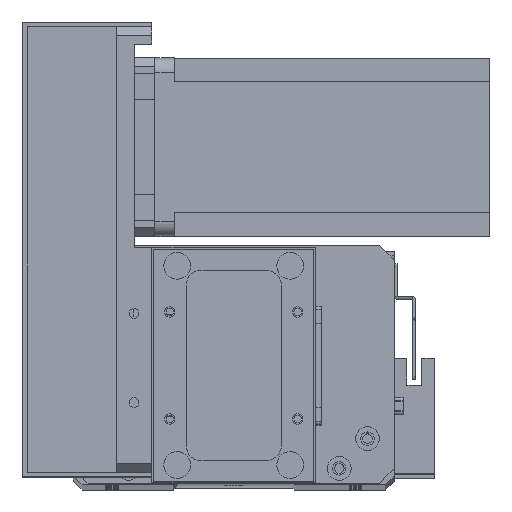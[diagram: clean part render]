
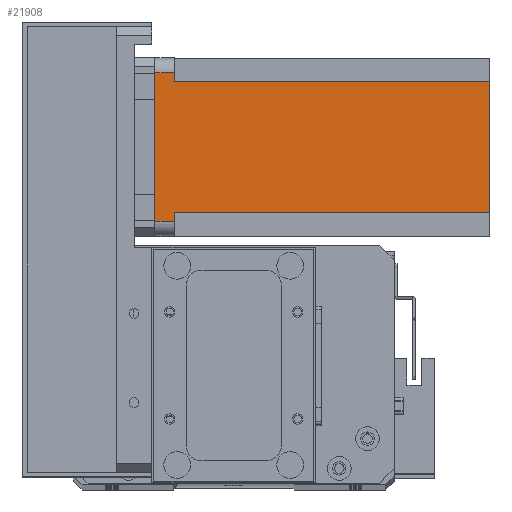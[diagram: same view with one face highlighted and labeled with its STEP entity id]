
A CAD part, top view. The second image highlights one B-rep face of the part: STEP entity #21908.
In plain terms, the highlighted planar face has unit normal (0, 0, 1) as drawn and (0, -1, 0) by its records, which use the part's own axes.
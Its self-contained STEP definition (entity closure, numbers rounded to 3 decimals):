
#1100 = EDGE_LOOP ( 'NONE', ( #6539, #14373, #20400, #7225, #6893, #10232, #17307, #29730 ) ) ;
#1119 = LINE ( 'NONE', #8290, #25360 ) ;
#1300 = EDGE_CURVE ( 'NONE', #26742, #24600, #15073, .T. ) ;
#1457 = CARTESIAN_POINT ( 'NONE',  ( 8., 0., -6.5 ) ) ;
#1964 = AXIS2_PLACEMENT_3D ( 'NONE', #4829, #11944, #28167 ) ;
#2926 = EDGE_CURVE ( 'NONE', #22791, #24600, #27307, .T. ) ;
#3059 = VECTOR ( 'NONE', #28596, 1000. ) ;
#4236 = LINE ( 'NONE', #28152, #9096 ) ;
#4522 = EDGE_CURVE ( 'NONE', #18155, #19927, #21744, .T. ) ;
#4829 = CARTESIAN_POINT ( 'NONE',  ( 0., 0., -112.5 ) ) ;
#5607 = LINE ( 'NONE', #27338, #29689 ) ;
#5912 = CARTESIAN_POINT ( 'NONE',  ( 5., 0., -6.5 ) ) ;
#6539 = ORIENTED_EDGE ( 'NONE', *, *, #7738, .T. ) ;
#6701 = CARTESIAN_POINT ( 'NONE',  ( 52., 0., -112.5 ) ) ;
#6893 = ORIENTED_EDGE ( 'NONE', *, *, #1300, .F. ) ;
#7225 = ORIENTED_EDGE ( 'NONE', *, *, #2926, .T. ) ;
#7738 = EDGE_CURVE ( 'NONE', #27606, #18155, #5607, .T. ) ;
#8290 = CARTESIAN_POINT ( 'NONE',  ( 0., 0., 0. ) ) ;
#8870 = VECTOR ( 'NONE', #15176, 1000. ) ;
#8884 = CARTESIAN_POINT ( 'NONE',  ( 52., 0., -112.5 ) ) ;
#9096 = VECTOR ( 'NONE', #18974, 1000. ) ;
#9982 = CARTESIAN_POINT ( 'NONE',  ( 0., 0., -112.5 ) ) ;
#10232 = ORIENTED_EDGE ( 'NONE', *, *, #25468, .F. ) ;
#10633 = CARTESIAN_POINT ( 'NONE',  ( 55., 0., -6.5 ) ) ;
#10657 = DIRECTION ( 'NONE',  ( 1., 0., 0. ) ) ;
#11225 = DIRECTION ( 'NONE',  ( 0., 0., -1. ) ) ;
#11856 = LINE ( 'NONE', #8884, #28920 ) ;
#11944 = DIRECTION ( 'NONE',  ( 0., -1., 0. ) ) ;
#14373 = ORIENTED_EDGE ( 'NONE', *, *, #4522, .T. ) ;
#14752 = VERTEX_POINT ( 'NONE', #14772 ) ;
#14772 = CARTESIAN_POINT ( 'NONE',  ( 8., 0., -112.5 ) ) ;
#14979 = VECTOR ( 'NONE', #25585, 1000. ) ;
#15073 = LINE ( 'NONE', #1457, #8870 ) ;
#15176 = DIRECTION ( 'NONE',  ( -1., 0., 0. ) ) ;
#17307 = ORIENTED_EDGE ( 'NONE', *, *, #23878, .T. ) ;
#18155 = VERTEX_POINT ( 'NONE', #10633 ) ;
#18974 = DIRECTION ( 'NONE',  ( 0., 0., 1. ) ) ;
#19927 = VERTEX_POINT ( 'NONE', #26464 ) ;
#20400 = ORIENTED_EDGE ( 'NONE', *, *, #26859, .F. ) ;
#21744 = LINE ( 'NONE', #28297, #3059 ) ;
#21908 = ADVANCED_FACE ( 'NONE', ( #22022 ), #25841, .T. ) ;
#22022 = FACE_OUTER_BOUND ( 'NONE', #1100, .T. ) ;
#22269 = VECTOR ( 'NONE', #28545, 1000. ) ;
#22328 = EDGE_CURVE ( 'NONE', #27606, #27602, #11856, .T. ) ;
#22791 = VERTEX_POINT ( 'NONE', #24654 ) ;
#22966 = CARTESIAN_POINT ( 'NONE',  ( 52., 0., -6.5 ) ) ;
#23878 = EDGE_CURVE ( 'NONE', #14752, #27602, #29197, .T. ) ;
#24032 = CARTESIAN_POINT ( 'NONE',  ( 8., 0., -6.5 ) ) ;
#24600 = VERTEX_POINT ( 'NONE', #5912 ) ;
#24654 = CARTESIAN_POINT ( 'NONE',  ( 5., 0., 0. ) ) ;
#25360 = VECTOR ( 'NONE', #10657, 1000. ) ;
#25468 = EDGE_CURVE ( 'NONE', #14752, #26742, #4236, .T. ) ;
#25585 = DIRECTION ( 'NONE',  ( 0., 0., -1. ) ) ;
#25784 = CARTESIAN_POINT ( 'NONE',  ( 5., 0., -112.5 ) ) ;
#25841 = PLANE ( 'NONE',  #1964 ) ;
#26278 = DIRECTION ( 'NONE',  ( 1., 0., 0. ) ) ;
#26464 = CARTESIAN_POINT ( 'NONE',  ( 55., 0., 0. ) ) ;
#26742 = VERTEX_POINT ( 'NONE', #24032 ) ;
#26859 = EDGE_CURVE ( 'NONE', #22791, #19927, #1119, .T. ) ;
#27307 = LINE ( 'NONE', #25784, #14979 ) ;
#27338 = CARTESIAN_POINT ( 'NONE',  ( 52., 0., -6.5 ) ) ;
#27602 = VERTEX_POINT ( 'NONE', #6701 ) ;
#27606 = VERTEX_POINT ( 'NONE', #22966 ) ;
#28152 = CARTESIAN_POINT ( 'NONE',  ( 8., 0., -112.5 ) ) ;
#28167 = DIRECTION ( 'NONE',  ( 0., 0., -1. ) ) ;
#28297 = CARTESIAN_POINT ( 'NONE',  ( 55., 0., -112.5 ) ) ;
#28545 = DIRECTION ( 'NONE',  ( 1., 0., 0. ) ) ;
#28596 = DIRECTION ( 'NONE',  ( 0., 0., 1. ) ) ;
#28920 = VECTOR ( 'NONE', #11225, 1000. ) ;
#29197 = LINE ( 'NONE', #9982, #22269 ) ;
#29689 = VECTOR ( 'NONE', #26278, 1000. ) ;
#29730 = ORIENTED_EDGE ( 'NONE', *, *, #22328, .F. ) ;
